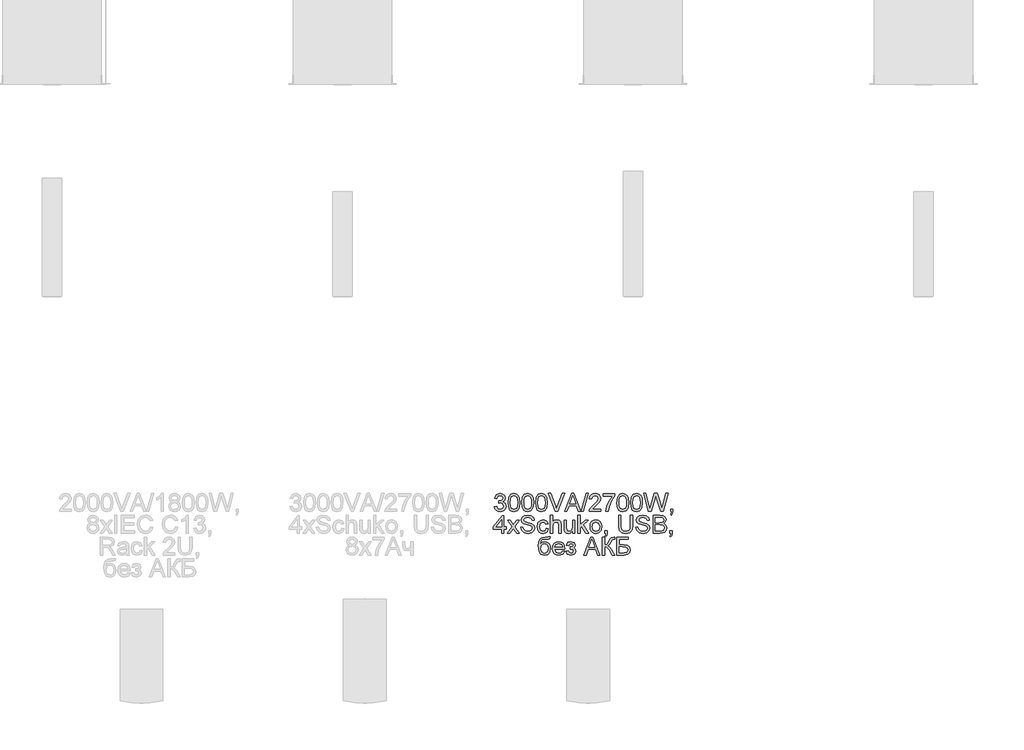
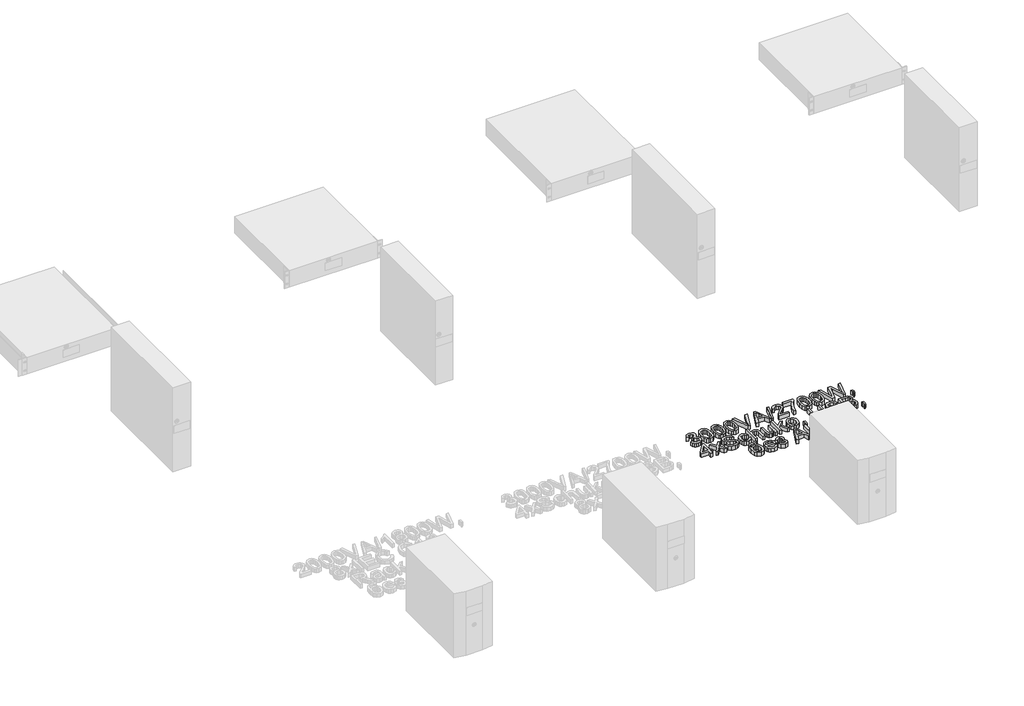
# One storey, part 59 of 74: 1 proxy.
"""IFC4 building model written with IfcOpenShell, lengths in millimetres."""

from ifc_helpers import new_model, si_unit, origin, origin_with_axes, place, context, project, spatial, polyline, outline, extrude, element, save

model = new_model("IFC4")

# Units and contexts
model_context = context("Model", 3, world=origin())
ifc_project = project(units=[si_unit("LENGTHUNIT", "METRE", prefix="MILLI")], contexts=[model_context])

# Site, building, storey
site = spatial("IfcSite", under=ifc_project)
building = spatial("IfcBuilding", under=site)
storey = spatial("IfcBuildingStorey", under=building, Name="Этаж 01", Elevation=0.0)

# Proxy
placement = place(None, origin())
element("IfcBuildingElementProxy", 1, Name="80 мм Arial", ObjectType="80 мм Arial", at=placement, inside=storey, context=model_context, shape_type="SweptSolid", body=[
    extrude(outline(polyline([(5932.1292761, -716.2878926), (5942.1749071, -715.0321887), (5947.7176625, -725.6075698), (5958.0870297, -728.8449313), (5970.2909018, -724.3911066), (5974.8232079, -713.364457), (5970.3301425, -702.9754694), (5958.9110854, -698.8650013), (5951.8673714, -699.9637422), (5952.9857327, -689.9181112), (5954.5946033, -690.0358334), (5965.9940401, -687.1516385), (5971.0560963, -678.2832299), (5967.3870865, -670.4252705), (5957.9300667, -667.3154414), (5948.3553247, -670.4547011), (5943.430611, -679.8724801), (5933.38498, -678.6167763), (5941.6059163, -662.8616167), (5957.5769, -657.2698104), (5969.6924804, -660.0264728), (5978.1684816, -667.560696), (5981.1017273, -677.6946187), (5978.3156344, -686.9554348), (5970.0750777, -693.6067413), (5981.0232458, -700.4738719), (5984.868839, -713.5410403), (5982.9460424, -723.3316065), (5977.1776527, -731.5133021), (5968.4711122, -737.0462473), (5957.733863, -738.8905623), (5948.0217783, -737.3160274), (5940.114768, -732.5924226), (5934.6161584, -725.3672202), (5932.1292761, -716.2878926)])), origin_with_axes(), (0.0, 0.0, 1.0), 20.0),
    extrude(outline(polyline([(5993.6587661, -698.0998067), (5996.6116322, -674.9771971), (6005.381939, -661.6451535), (6020.0285475, -657.2698104), (6031.7615306, -659.8596996), (6039.8647447, -667.3252516), (6044.5736342, -679.2151976), (6046.3983289, -698.0998067), (6043.4748933, -721.1243145), (6034.7340171, -734.4857886), (6020.0285475, -738.8905623), (6009.590509, -736.977576), (6001.6638783, -731.2386168), (5995.6600442, -717.6466034), (5993.6587661, -698.0998067)]), holes=[polyline([(6003.7043971, -698.0801864), (6004.8816195, -713.8819443), (6008.4132867, -723.0274907), (6020.0285475, -728.8449313), (6031.6438084, -723.0078703), (6035.1754755, -713.8574189), (6036.3526979, -698.0801864), (6035.2147163, -682.6340476), (6031.8007714, -673.4173774), (6026.5523216, -668.8409254), (6019.9108253, -667.3154414), (6008.5702496, -672.6914236), (6004.9208602, -682.4819898), (6003.7043971, -698.0801864)])]), origin_with_axes(), (0.0, 0.0, 1.0), 20.0),
    extrude(outline(polyline([(6055.1882561, -698.0998067), (6058.1411222, -674.9771971), (6066.911429, -661.6451535), (6081.5580375, -657.2698104), (6093.2910206, -659.8596996), (6101.3942347, -667.3252516), (6106.1031242, -679.2151976), (6107.9278189, -698.0998067), (6105.0043833, -721.1243145), (6096.2635071, -734.4857886), (6081.5580375, -738.8905623), (6071.119999, -736.977576), (6063.1933683, -731.2386168), (6057.1895341, -717.6466034), (6055.1882561, -698.0998067)]), holes=[polyline([(6065.2338871, -698.0801864), (6066.4111095, -713.8819443), (6069.9427766, -723.0274907), (6081.5580375, -728.8449313), (6093.1732983, -723.0078703), (6096.7049655, -713.8574189), (6097.8821879, -698.0801864), (6096.7442062, -682.6340476), (6093.3302613, -673.4173774), (6088.0818115, -668.8409254), (6081.4403152, -667.3154414), (6070.0997396, -672.6914236), (6066.4503502, -682.4819898), (6065.2338871, -698.0801864)])]), origin_with_axes(), (0.0, 0.0, 1.0), 20.0),
    extrude(outline(polyline([(6116.717746, -698.0998067), (6119.6706122, -674.9771971), (6128.4409189, -661.6451535), (6143.0875274, -657.2698104), (6154.8205105, -659.8596996), (6162.9237246, -667.3252516), (6167.6326142, -679.2151976), (6169.4573089, -698.0998067), (6166.5338733, -721.1243145), (6157.7929971, -734.4857886), (6143.0875274, -738.8905623), (6132.649489, -736.977576), (6124.7228582, -731.2386168), (6118.7190241, -717.6466034), (6116.717746, -698.0998067)]), holes=[polyline([(6126.763377, -698.0801864), (6127.9405994, -713.8819443), (6131.4722666, -723.0274907), (6143.0875274, -728.8449313), (6154.7027883, -723.0078703), (6158.2344555, -713.8574189), (6159.4116778, -698.0801864), (6158.2736962, -682.6340476), (6154.8597513, -673.4173774), (6149.6113015, -668.8409254), (6142.9698052, -667.3154414), (6131.6292296, -672.6914236), (6127.9798402, -682.4819898), (6126.763377, -698.0801864)])]), origin_with_axes(), (0.0, 0.0, 1.0), 20.0),
    extrude(outline(polyline([(6205.7549991, -737.6348585), (6173.7737909, -657.2698104), (6184.5257554, -657.2698104), (6205.9315824, -715.1695313), (6210.2676849, -728.2170794), (6214.5449262, -715.1695313), (6236.0096143, -657.2698104), (6246.7615788, -657.2698104), (6216.1341764, -737.6348585), (6205.7549991, -737.6348585)])), origin_with_axes(), (0.0, 0.0, 1.0), 20.0),
    extrude(outline(polyline([(6246.7419584, -737.6348585), (6278.8212684, -657.2698104), (6287.375751, -657.2698104), (6319.455061, -737.6348585), (6308.8404392, -737.6348585), (6299.6384842, -712.5207809), (6266.5389148, -712.5207809), (6257.3565802, -737.6348585), (6246.7419584, -737.6348585)]), holes=[polyline([(6270.227545, -702.4751499), (6295.9694745, -702.4751499), (6288.7295568, -682.7174342), (6283.0985097, -667.3154414), (6278.0953146, -680.9908414), (6270.227545, -702.4751499)])]), origin_with_axes(), (0.0, 0.0, 1.0), 20.0),
    extrude(outline(polyline([(6321.397478, -737.6348585), (6344.0001477, -657.2698104), (6353.0647601, -657.2698104), (6330.4620903, -737.6348585), (6321.397478, -737.6348585)])), origin_with_axes(), (0.0, 0.0, 1.0), 20.0),
    extrude(outline(polyline([(6409.2967493, -727.5892275), (6409.2967493, -737.6348585), (6356.5571865, -737.6348585), (6357.636307, -730.7088668), (6363.7382431, -720.045194), (6376.3149022, -708.4005026), (6393.659312, -691.6643244), (6397.9954145, -680.284508), (6393.9045667, -671.0727428), (6383.2212735, -667.3154414), (6372.0867118, -670.9844511), (6367.8585214, -681.128184), (6357.8128904, -679.8724801), (6360.2482692, -670.1554904), (6365.5138868, -663.0578204), (6373.335058, -658.7168129), (6383.4370976, -657.2698104), (6393.6127136, -658.8786809), (6401.4191696, -663.7052927), (6406.3855765, -670.9157798), (6408.0410455, -679.6762764), (6406.2555915, -689.2019675), (6400.3204287, -699.0513948), (6385.928885, -712.8150865), (6374.3724853, -722.4781203), (6369.8401791, -727.5892275), (6409.2967493, -727.5892275)])), origin_with_axes(), (0.0, 0.0, 1.0), 20.0),
    extrude(outline(polyline([(6419.3423804, -668.5711452), (6419.3423804, -658.5255142), (6472.0819432, -658.5255142), (6472.0819432, -666.6483487), (6457.1214087, -688.2601896), (6445.672921, -715.7973832), (6441.9450501, -737.6348585), (6431.8994191, -737.6348585), (6435.892165, -714.9733276), (6446.8501434, -689.3589305), (6462.0363122, -668.5711452), (6419.3423804, -668.5711452)])), origin_with_axes(), (0.0, 0.0, 1.0), 20.0),
    extrude(outline(polyline([(6480.8718703, -698.0998067), (6483.8247365, -674.9771971), (6492.5950432, -661.6451535), (6507.2416517, -657.2698104), (6518.9746348, -659.8596996), (6527.0778489, -667.3252516), (6531.7867385, -679.2151976), (6533.6114332, -698.0998067), (6530.6879976, -721.1243145), (6521.9471214, -734.4857886), (6507.2416517, -738.8905623), (6496.8036133, -736.977576), (6488.8769825, -731.2386168), (6482.8731484, -717.6466034), (6480.8718703, -698.0998067)]), holes=[polyline([(6490.9175013, -698.0801864), (6492.0947237, -713.8819443), (6495.6263909, -723.0274907), (6507.2416517, -728.8449313), (6518.8569126, -723.0078703), (6522.3885798, -713.8574189), (6523.5658021, -698.0801864), (6522.4278205, -682.6340476), (6519.0138756, -673.4173774), (6513.7654258, -668.8409254), (6507.1239295, -667.3154414), (6495.7833539, -672.6914236), (6492.1339645, -682.4819898), (6490.9175013, -698.0801864)])]), origin_with_axes(), (0.0, 0.0, 1.0), 20.0),
    extrude(outline(polyline([(6542.4013603, -698.0998067), (6545.3542264, -674.9771971), (6554.1245332, -661.6451535), (6568.7711417, -657.2698104), (6580.5041248, -659.8596996), (6588.6073389, -667.3252516), (6593.3162284, -679.2151976), (6595.1409231, -698.0998067), (6592.2174875, -721.1243145), (6583.4766113, -734.4857886), (6568.7711417, -738.8905623), (6558.3331032, -736.977576), (6550.4064725, -731.2386168), (6544.4026383, -717.6466034), (6542.4013603, -698.0998067)]), holes=[polyline([(6552.4469913, -698.0801864), (6553.6242137, -713.8819443), (6557.1558808, -723.0274907), (6568.7711417, -728.8449313), (6580.3864026, -723.0078703), (6583.9180697, -713.8574189), (6585.0952921, -698.0801864), (6583.9573105, -682.6340476), (6580.5433656, -673.4173774), (6575.2949158, -668.8409254), (6568.6534195, -667.3154414), (6557.3128438, -672.6914236), (6553.6634544, -682.4819898), (6552.4469913, -698.0801864)])]), origin_with_axes(), (0.0, 0.0, 1.0), 20.0),
    extrude(outline(polyline([(6622.0796954, -737.6348585), (6600.1637386, -657.2698104), (6610.5232956, -657.2698104), (6623.2372974, -710.0878547), (6627.161372, -726.3923847), (6631.3601318, -711.9714105), (6647.2918748, -657.2698104), (6662.2229787, -657.2698104), (6673.7989988, -696.9225843), (6682.4123426, -726.3923847), (6686.2186949, -710.5587436), (6699.0504189, -657.2698104), (6709.4099759, -657.2698104), (6687.4743988, -737.6348585), (6676.7420547, -737.6348585), (6657.4748484, -675.6344796), (6654.7868573, -666.981895), (6651.7653198, -677.4003131), (6634.2050859, -737.6348585), (6622.0796954, -737.6348585)])), origin_with_axes(), (0.0, 0.0, 1.0), 20.0),
    extrude(outline(polyline([(6720.7113108, -737.6348585), (6720.7113108, -727.5892275), (6730.7569418, -727.5892275), (6730.7569418, -737.6348585), (6728.9518675, -747.9061238), (6723.2227186, -753.9590089), (6720.7113108, -750.1918972), (6724.3999409, -745.8557948), (6725.7145059, -737.6348585), (6720.7113108, -737.6348585)])), origin_with_axes(), (0.0, 0.0, 1.0), 20.0),
    extrude(outline(polyline([(5964.7775769, -835.2147127), (5964.7775769, -816.3791546), (5928.3621645, -816.3791546), (5928.3621645, -806.3335236), (5967.2889847, -756.1053685), (5974.8232079, -756.1053685), (5974.8232079, -806.3335236), (5984.868839, -806.3335236), (5984.868839, -816.3791546), (5974.8232079, -816.3791546), (5974.8232079, -835.2147127), (5964.7775769, -835.2147127)]), holes=[polyline([(5964.7775769, -806.3335236), (5964.7775769, -775.2940934), (5940.7229995, -806.3335236), (5964.7775769, -806.3335236)])]), origin_with_axes(), (0.0, 0.0, 1.0), 20.0),
    extrude(outline(polyline([(5989.8916545, -835.2147127), (6011.3563426, -805.5487087), (5991.1473583, -776.1966305), (6003.2335082, -776.1966305), (6012.9848336, -790.3232991), (6017.5367601, -796.994226), (6021.4804551, -791.5397623), (6032.5855863, -776.1966305), (6044.6717361, -776.1966305), (6023.4424924, -805.5487087), (6043.8869212, -835.2147127), (6031.8007714, -835.2147127), (6019.4987974, -817.3797936), (6017.2424545, -814.1228117), (6001.9778043, -835.2147127), (5989.8916545, -835.2147127)])), origin_with_axes(), (0.0, 0.0, 1.0), 20.0),
    extrude(outline(polyline([(6050.1654406, -807.5892275), (6060.2110716, -807.5892275), (6063.4484331, -817.6446687), (6071.3554435, -824.0016695), (6083.4023525, -826.4247856), (6093.8992521, -824.5902807), (6100.678091, -819.5478448), (6102.9050034, -812.8082467), (6101.2372717, -806.5395375), (6094.4093818, -801.9778008), (6079.7823937, -798.1420178), (6064.0370443, -793.1878736), (6055.4923718, -785.7125115), (6052.6768483, -775.7257416), (6056.1594645, -764.3557354), (6066.332628, -756.3310028), (6081.2244911, -753.5939608), (6097.1169933, -756.4585352), (6107.7119948, -764.8756753), (6111.6949305, -777.4523344), (6101.6492995, -777.4523344), (6095.9593913, -767.1320182), (6081.6168986, -763.6395918), (6067.2351651, -767.0927774), (6062.7224793, -775.431436), (6065.9206001, -782.3966684), (6082.323232, -788.0080951), (6100.09929, -793.050531), (6109.8211849, -801.1929858), (6112.9506344, -812.5531818), (6109.3502959, -824.5706604), (6098.990739, -833.3409671), (6083.79476, -836.4704166), (6065.8519288, -833.0957125), (6054.501543, -822.9323592), (6050.1654406, -807.5892275)])), origin_with_axes(), (0.0, 0.0, 1.0), 20.0),
    extrude(outline(polyline([(6164.4344934, -813.8677468), (6174.4801244, -815.1234507), (6171.6793161, -824.0580781), (6166.416151, -830.809939), (6150.4844081, -836.4704166), (6139.7986624, -834.4961166), (6131.442836, -828.5732165), (6126.049686, -818.9616862), (6124.2519693, -805.9214957), (6127.3225577, -789.2343684), (6136.6814756, -778.5118346), (6150.3470655, -774.9409267), (6165.6215259, -779.8460199), (6173.2244205, -793.7764848), (6163.1787895, -795.0321887), (6158.5189509, -787.5077756), (6150.425547, -784.9865577), (6138.7808556, -789.9505121), (6134.2976003, -805.6468105), (6138.6827537, -821.4902618), (6150.1508618, -826.4247856), (6159.6176918, -823.344387), (6164.4344934, -813.8677468)])), origin_with_axes(), (0.0, 0.0, 1.0), 20.0),
    extrude(outline(polyline([(6183.2700515, -835.2147127), (6183.2700515, -754.8496646), (6193.3156825, -754.8496646), (6193.3156825, -784.3979465), (6201.1491165, -777.3051816), (6210.7974349, -774.9409267), (6222.0791495, -777.5210057), (6228.9266597, -784.6530113), (6230.9867988, -797.8575224), (6230.9867988, -835.2147127), (6220.9411678, -835.2147127), (6220.9411678, -798.8974022), (6217.743047, -788.3024007), (6208.6784346, -784.9865577), (6200.4476881, -787.2232802), (6194.9539837, -793.2859755), (6193.3156825, -803.8613566), (6193.3156825, -835.2147127), (6183.2700515, -835.2147127)])), origin_with_axes(), (0.0, 0.0, 1.0), 20.0),
    extrude(outline(polyline([(6282.4706578, -835.2147127), (6282.4706578, -825.0709799), (6274.6028882, -833.6205574), (6264.3414331, -836.4704166), (6254.8942234, -834.4691386), (6248.3802596, -829.4463231), (6245.3881527, -822.0494424), (6244.7995415, -812.7101448), (6244.7995415, -776.1966305), (6254.8451725, -776.1966305), (6254.8451725, -807.9816349), (6255.4534041, -818.2234697), (6259.4265296, -824.237114), (6266.9117019, -826.4247856), (6275.2994114, -824.1880631), (6280.8421668, -818.0959372), (6282.4706578, -806.9025144), (6282.4706578, -776.1966305), (6292.5162888, -776.1966305), (6292.5162888, -835.2147127), (6282.4706578, -835.2147127)])), origin_with_axes(), (0.0, 0.0, 1.0), 20.0),
    extrude(outline(polyline([(6306.3290314, -835.2147127), (6306.3290314, -754.8496646), (6316.3746625, -754.8496646), (6316.3746625, -798.0341058), (6338.8988507, -776.1966305), (6352.7900749, -776.1966305), (6329.9912014, -798.308791), (6354.0457788, -835.2147127), (6342.3127957, -835.2147127), (6322.7905245, -805.2936438), (6316.3746625, -811.5133021), (6316.3746625, -835.2147127), (6306.3290314, -835.2147127)])), origin_with_axes(), (0.0, 0.0, 1.0), 20.0),
    extrude(outline(polyline([(6360.3242981, -805.7056716), (6362.4972545, -791.4759961), (6369.0161234, -781.4745109), (6377.0702866, -776.5743227), (6386.7136999, -774.9409267), (6397.2670081, -776.929942), (6405.6964109, -782.8969879), (6411.2219985, -792.3711756), (6413.063861, -804.881616), (6409.806879, -822.7557758), (6400.3204287, -832.8700782), (6386.7136999, -836.4704166), (6376.0328593, -834.4887589), (6367.6132667, -828.5437859), (6362.1465403, -818.870942), (6360.3242981, -805.7056716)]), holes=[polyline([(6370.3699292, -805.6860513), (6375.0199576, -821.2548173), (6386.7136999, -826.4247856), (6398.3682015, -821.2253867), (6403.01823, -805.3721253), (6398.338771, -790.156526), (6386.7136999, -784.9865577), (6375.0199576, -790.1369056), (6370.3699292, -805.6860513)])]), origin_with_axes(), (0.0, 0.0, 1.0), 20.0),
    extrude(outline(polyline([(6426.8766036, -835.2147127), (6426.8766036, -825.1690817), (6436.9222346, -825.1690817), (6436.9222346, -835.2147127), (6435.1171603, -845.4859781), (6429.3880114, -851.5388631), (6426.8766036, -847.7717515), (6430.5652338, -843.4356491), (6431.8797988, -835.2147127), (6426.8766036, -835.2147127)])), origin_with_axes(), (0.0, 0.0, 1.0), 20.0),
    extrude(outline(polyline([(6541.1456564, -754.8496646), (6551.1912874, -754.8496646), (6551.1912874, -801.2126062), (6548.4640556, -820.4307616), (6538.6342487, -832.0067817), (6519.9948942, -836.4704166), (6501.6400352, -832.5855828), (6491.4570616, -821.3332988), (6488.4060936, -801.2126062), (6488.4060936, -754.8496646), (6498.4517246, -754.8496646), (6498.4517246, -800.8594395), (6500.4333823, -816.1731407), (6507.2416517, -823.7564149), (6519.0531163, -826.4247856), (6529.2704256, -825.1053155), (6536.0639798, -821.1469053), (6539.8752373, -813.4360986), (6541.1456564, -800.8594395), (6541.1456564, -754.8496646)])), origin_with_axes(), (0.0, 0.0, 1.0), 20.0),
    extrude(outline(polyline([(6565.0040301, -807.5892275), (6575.0496611, -807.5892275), (6578.2870226, -817.6446687), (6586.194033, -824.0016695), (6598.2409421, -826.4247856), (6608.7378417, -824.5902807), (6615.5166806, -819.5478448), (6617.7435929, -812.8082467), (6616.0758612, -806.5395375), (6609.2479714, -801.9778008), (6594.6209832, -798.1420178), (6578.8756338, -793.1878736), (6570.3309614, -785.7125115), (6567.5154378, -775.7257416), (6570.998054, -764.3557354), (6581.1712175, -756.3310028), (6596.0630807, -753.5939608), (6611.9555828, -756.4585352), (6622.5505843, -764.8756753), (6626.53352, -777.4523344), (6616.487889, -777.4523344), (6610.7979808, -767.1320182), (6596.4554881, -763.6395918), (6582.0737547, -767.0927774), (6577.5610688, -775.431436), (6580.7591897, -782.3966684), (6597.1618215, -788.0080951), (6614.9378796, -793.050531), (6624.6597744, -801.1929858), (6627.7892239, -812.5531818), (6624.1888855, -824.5706604), (6613.8293285, -833.3409671), (6598.6333495, -836.4704166), (6580.6905183, -833.0957125), (6569.3401325, -822.9323592), (6565.0040301, -807.5892275)])), origin_with_axes(), (0.0, 0.0, 1.0), 20.0),
    extrude(outline(polyline([(6642.8576704, -835.2147127), (6642.8576704, -754.8496646), (6673.5243136, -754.8496646), (6688.5437091, -757.2139196), (6697.4121178, -764.4832678), (6700.6200488, -774.7643433), (6697.9222475, -784.1526918), (6689.7699825, -791.2650771), (6699.6684607, -798.7600596), (6703.1314565, -811.2582372), (6700.7672016, -822.0592526), (6694.9105202, -829.7504388), (6686.169644, -833.8314764), (6673.2888691, -835.2147127), (6642.8576704, -835.2147127)]), holes=[polyline([(6652.9033015, -787.4979654), (6671.2483503, -787.4979654), (6681.961074, -786.634669), (6688.4063665, -782.9166083), (6690.5744178, -776.3732139), (6688.5535193, -769.8200093), (6682.7655093, -765.9449856), (6669.8553038, -764.8952956), (6652.9033015, -764.8952956), (6652.9033015, -787.4979654)]), polyline([(6652.9033015, -825.1690817), (6673.5046932, -825.1690817), (6680.960435, -824.7766743), (6687.2683849, -822.5890027), (6691.4475244, -818.1253678), (6693.0858255, -811.3563391), (6691.163029, -803.5474306), (6684.9335605, -798.887592), (6672.5236745, -797.5435964), (6652.9033015, -797.5435964), (6652.9033015, -825.1690817)])]), origin_with_axes(), (0.0, 0.0, 1.0), 20.0),
    extrude(outline(polyline([(6718.1999031, -835.2147127), (6718.1999031, -825.1690817), (6728.2455341, -825.1690817), (6728.2455341, -835.2147127), (6726.4404597, -845.4859781), (6720.7113108, -851.5388631), (6718.1999031, -847.7717515), (6721.8885332, -843.4356491), (6723.2030982, -835.2147127), (6718.1999031, -835.2147127)])), origin_with_axes(), (0.0, 0.0, 1.0), 20.0),
    extrude(outline(polyline([(6173.2244205, -851.173815), (6182.0143476, -851.173815), (6179.4244584, -859.0121541), (6174.303541, -861.847298), (6162.0015671, -862.4751499), (6145.432162, -864.7903539), (6139.0751612, -872.206855), (6136.9267303, -885.3328846), (6145.6283658, -875.7189017), (6156.841409, -872.5207809), (6167.2941627, -874.5539421), (6175.775069, -880.6534256), (6181.3963059, -890.22081), (6183.2700515, -902.657674), (6179.5519908, -919.9432227), (6170.7326331, -930.3714509), (6156.841409, -934.0502709), (6140.9783373, -929.3119508), (6132.2963223, -917.1865602), (6129.2747848, -891.454441), (6131.1804135, -872.179877), (6136.8972997, -860.4248209), (6146.5676911, -854.4283444), (6160.3338354, -852.4295189), (6171.517448, -852.2038846), (6173.2244205, -851.173815)]), holes=[polyline([(6173.2244205, -902.343748), (6168.8686977, -888.1091673), (6163.6202479, -883.9521008), (6156.5863441, -882.5664119), (6149.2532297, -884.0305823), (6143.8134813, -888.4230933), (6139.3204158, -904.0703408), (6144.2843702, -918.8739123), (6156.527483, -924.0046399), (6163.2621761, -922.5208492), (6168.5940124, -918.069477), (6173.2244205, -902.343748)])]), origin_with_axes(), (0.0, 0.0, 1.0), 20.0),
    extrude(outline(polyline([(6237.147596, -915.2147127), (6246.9970233, -916.4704166), (6237.7852581, -929.4394832), (6220.6272418, -934.0502709), (6208.8403027, -932.0612556), (6199.7707853, -926.0942096), (6193.9876803, -916.5366354), (6192.0599786, -903.7760352), (6194.0073007, -890.5862394), (6199.8492668, -880.7220969), (6208.7961569, -874.5711099), (6220.058251, -872.5207809), (6230.969631, -874.5662048), (6239.6884343, -880.7024765), (6245.4053205, -890.5469987), (6247.3109492, -903.7171741), (6247.2520881, -906.4247856), (6202.1056097, -906.4247856), (6207.8838095, -919.4723337), (6220.8234456, -924.0046399), (6230.6728729, -921.90526), (6237.147596, -915.2147127)]), holes=[polyline([(6202.1056097, -896.3791546), (6237.2653182, -896.3791546), (6233.2431417, -887.2753015), (6220.0190103, -882.5664119), (6207.6483651, -886.3237134), (6202.1056097, -896.3791546)])]), origin_with_axes(), (0.0, 0.0, 1.0), 20.0),
    extrude(outline(polyline([(6271.1693229, -906.4247856), (6271.1693229, -896.3791546), (6279.0959536, -895.9867471), (6283.0985097, -893.8971774), (6284.9820655, -889.5316444), (6282.4608476, -884.459778), (6275.9566939, -882.5664119), (6269.2367161, -884.4499678), (6264.8908035, -890.1006352), (6253.5894686, -888.8449313), (6261.1433122, -876.6018185), (6274.9364345, -872.5207809), (6289.6909551, -877.4945455), (6295.0276965, -889.3746814), (6293.1294255, -895.61396), (6287.4346122, -900.4405718), (6294.0761085, -906.6994708), (6296.2834004, -915.7052221), (6294.8829963, -923.0996502), (6290.6817839, -928.9587841), (6275.014916, -934.0502709), (6259.5638722, -929.3413814), (6252.3337647, -915.2147127), (6263.6350996, -913.9590089), (6268.1674058, -921.3755099), (6275.9763143, -924.0046399), (6283.3143338, -921.4834219), (6286.2377694, -915.0381294), (6284.4228849, -909.760249), (6280.5576714, -906.9349153), (6273.1313602, -906.3659245), (6271.1693229, -906.4247856)])), origin_with_axes(), (0.0, 0.0, 1.0), 20.0),
    extrude(outline(polyline([(6332.129822, -932.794567), (6364.209132, -852.4295189), (6372.7636147, -852.4295189), (6404.8429247, -932.794567), (6394.2283028, -932.794567), (6385.0263478, -907.6804895), (6351.9267785, -907.6804895), (6342.7444439, -932.794567), (6332.129822, -932.794567)]), holes=[polyline([(6355.6154086, -897.6348585), (6381.3573381, -897.6348585), (6374.1174204, -877.8771428), (6368.4863733, -862.4751499), (6363.4831782, -876.15055), (6355.6154086, -897.6348585)])]), origin_with_axes(), (0.0, 0.0, 1.0), 20.0),
    extrude(outline(polyline([(6415.5752687, -852.4295189), (6425.6208997, -852.4295189), (6425.6208997, -887.5892275), (6436.8535633, -884.9306669), (6444.6919024, -871.4809012), (6450.2346578, -860.2482376), (6456.5131772, -854.6858618), (6465.4894978, -852.4295189), (6472.0819432, -852.5472411), (6472.0819432, -862.5928722), (6469.864841, -862.534011), (6467.6477389, -862.4751499), (6459.7995896, -864.8884558), (6453.8349962, -875.2283924), (6446.722611, -887.8246719), (6439.7868091, -891.984191), (6447.5417616, -896.5263074), (6455.188802, -905.9931374), (6472.0819432, -932.794567), (6460.4274416, -932.794567), (6446.14381, -910.1526565), (6436.0883688, -898.3313817), (6425.6208997, -895.1234507), (6425.6208997, -932.794567), (6415.5752687, -932.794567), (6415.5752687, -852.4295189)])), origin_with_axes(), (0.0, 0.0, 1.0), 20.0),
    extrude(outline(polyline([(6480.8718703, -852.4295189), (6531.1000254, -852.4295189), (6531.1000254, -862.4751499), (6490.9175013, -862.4751499), (6490.9175013, -886.3335236), (6509.7334391, -886.3335236), (6526.3126544, -888.3740424), (6536.181702, -896.084849), (6539.8899525, -909.2697397), (6537.2510124, -920.7182274), (6529.3734326, -929.4198629), (6511.5385134, -932.794567), (6480.8718703, -932.794567), (6480.8718703, -852.4295189)]), holes=[polyline([(6490.9175013, -922.748936), (6512.4410506, -922.748936), (6525.4885987, -919.433093), (6529.8443215, -909.4855638), (6527.3525341, -901.6177942), (6520.4167323, -897.4190344), (6505.2796144, -896.3791546), (6490.9175013, -896.3791546), (6490.9175013, -922.748936)])]), origin_with_axes(), (0.0, 0.0, 1.0), 20.0),
])

save(model, "model.ifc")
